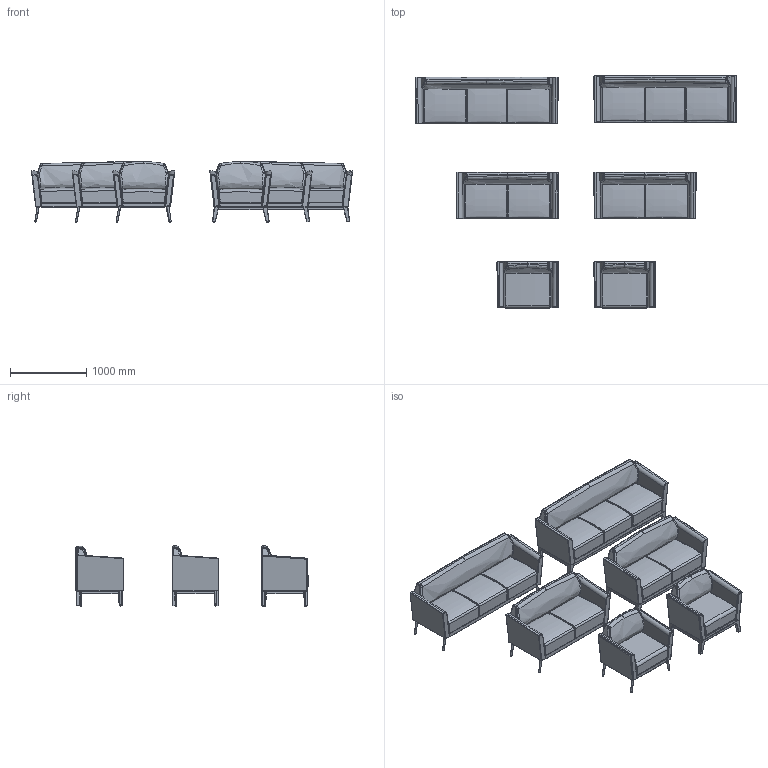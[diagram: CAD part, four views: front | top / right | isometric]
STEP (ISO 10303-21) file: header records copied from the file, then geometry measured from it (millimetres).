
FILE_DESCRIPTION(/* description */ (''),/* implementation_level */ '2;1');
FILE_NAME(/* name */ '2313_Wood.step',/* time_stamp */ '2026-07-28T15:20:22-07:00',/* author */ (''),/* organization */ (''),/* preprocessor_version */ 'ST-DEVELOPER v20.1',/* originating_system */ 'Autodesk Translation Framework v15.8.0.0',/* authorisation */ '');
FILE_SCHEMA (('AUTOMOTIVE_DESIGN { 1 0 10303 214 3 1 1 }','AP242_MANAGED_MODEL_BASED_3D_ENGINEERING_MIM_LF { 1 0 10303 442 3 1 4 }'));
Products named in the file (4): BREEZE Lounge High Back_Allmodels; Breeze Wood Base V2 v6; BREEZE Love 12-7-2022 v7; BREEZE Sofa 12-7-2022 v2
Assembly tree (3 placements, depth 2):
  BREEZE Lounge High Back_Allmodels
    Breeze Wood Base V2 v6
    BREEZE Love 12-7-2022 v7
    BREEZE Sofa 12-7-2022 v2
Bounding box: 4206.95 x 3042.6 x 794.68 mm (x, y, z)
Volume: 1560918518.4 mm3; surface area: 47053998.7 mm2
Topology: 146 solids, 146 shells, 3836 faces, 8371 edges, 4759 vertices
Faces by surface type: bspline 1574, cylinder 1022, plane 702, torus 276, sphere 238, cone 24
Full cylindrical faces by diameter (mm): 12.7 x48, 19.05 x4
Entity records: 182957 total; most frequent: CARTESIAN_POINT 107997, ORIENTED_EDGE 16534, DIRECTION 13363, EDGE_CURVE 8267, AXIS2_PLACEMENT_3D 5623, VERTEX_POINT 4759, EDGE_LOOP 3908, FACE_OUTER_BOUND 3836
